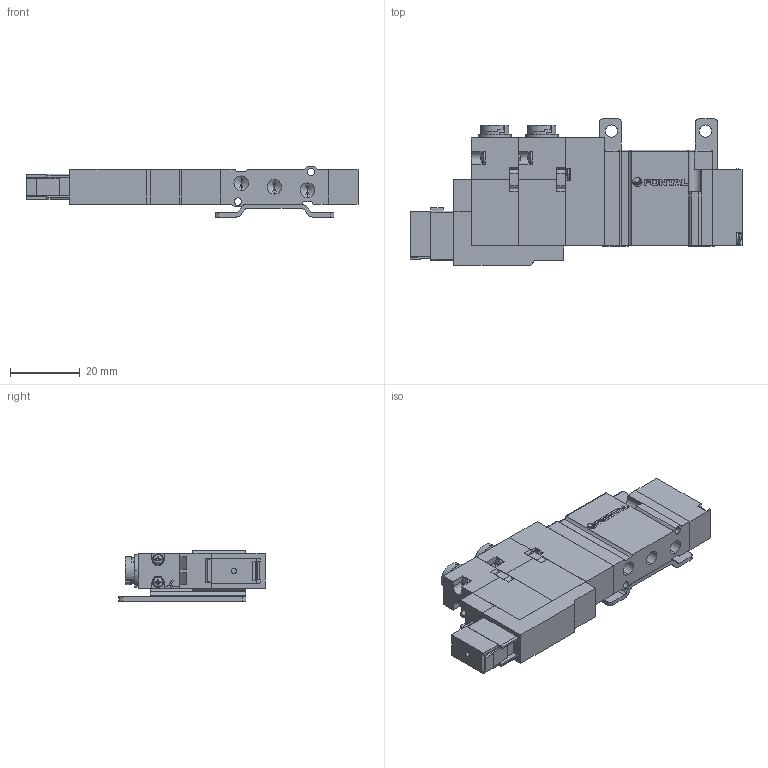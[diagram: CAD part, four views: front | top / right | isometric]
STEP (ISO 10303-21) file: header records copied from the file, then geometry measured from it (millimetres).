
FILE_DESCRIPTION (( 'STEP AP203' ), '1' );
FILE_NAME ('A05FD25#-BS-#-#-E.STEP', '2016-02-15T06:15:35', ( 'Sam Lin' ), ( '' ), 'SwSTEP 2.0', 'SolidWorks 2013', '' );
FILE_SCHEMA (( 'CONFIG_CONTROL_DESIGN' ));
Length unit declared in the file: metre
Products named in the file (15): A05RS25-1; A05RS25-12; DC24-A05F-2; A05FS25-5; ISO 7045 - M1.6 x 10; A05FS25-6; A05FD25#-BS-#-#-E; mark-ADEX-A05RS; A05FS25-2; A05RS25-3; A05RS25-4; A05RS25-5; A05RS25-6; DC24-A05F-1; DC24-A05G-3
Assembly tree (27 placements, depth 2):
  A05FD25#-BS-#-#-E
    A05RS25-1
    ISO 7045 - M1.6 x 10  x8
    mark-ADEX-A05RS
    A05RS25-3  x2
    A05RS25-4  x2
    A05RS25-5  x2
    A05RS25-6  x4
    DC24-A05F-1
    DC24-A05G-3
    DC24-A05F-2
    A05FS25-6
    A05FS25-2
    A05RS25-12
    A05FS25-5
Bounding box: 95.3 x 42 x 14.4 mm (x, y, z)
Volume: 25583.3 mm3; surface area: 17925.8 mm2
Topology: 35 solids, 35 shells, 932 faces, 2390 edges, 1520 vertices
Faces by surface type: plane 584, cylinder 196, cone 86, bspline 66
Entity records: 17841 total; most frequent: CARTESIAN_POINT 3509, ORIENTED_EDGE 2582, DIRECTION 2535, EDGE_CURVE 1291, VECTOR 925, LINE 925, VERTEX_POINT 847, AXIS2_PLACEMENT_3D 805
